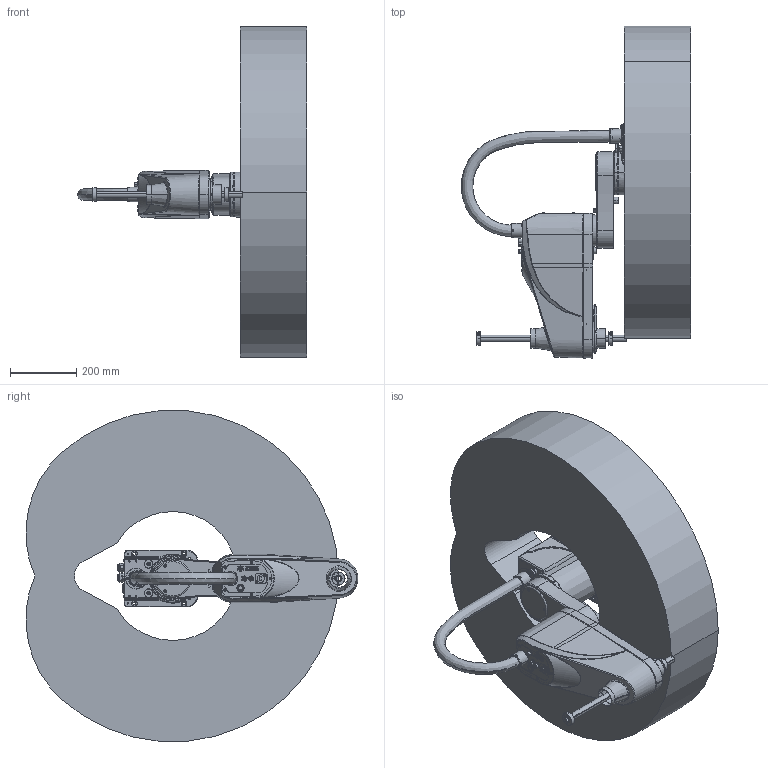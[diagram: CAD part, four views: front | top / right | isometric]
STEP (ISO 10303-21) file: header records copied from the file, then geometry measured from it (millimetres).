
FILE_DESCRIPTION (( 'STEP AP214' ), '1' );
FILE_NAME ('TRH005-500-200-S2可拖动机器人（SW2023）.STEP', '2025-04-17T00:57:58', ( 'Windows User' ), ( 'P R C' ), 'SwSTEP 2.0', 'SolidWorks 2023', '' );
FILE_SCHEMA (( 'AUTOMOTIVE_DESIGN' ));
Length unit declared in the file: millimetre
Products named in the file (8): TRH005-500-200-S2可拖动机器人（SW2023）; 复件 TRH0550-2-0^复件 TRH005-500-200-S2_TRH005-500-200-S2可拖动机器人（SW2023）; 复件 TRH005-500-200-S2^TRH005-500-200-S2可拖动机器人（SW2023）; 复件 20丝杆模块^复件 TRH005-500-200-S2_TRH005-500-200-S2可拖动机器人（SW2023）; 复件 scara600波纹管^复件 TRH005-500-200-S2_TRH005-500-200-S2可拖动机器人（SW2023）; 复件 500S2_1^复件 TRH005-500-200-S2_TRH005-500-200-S2可拖动机器人（SW2023）; 复件 TRH005-600-3 小臂模块^复件 TRH005-500-200-S2_TRH005-500-200-S2可拖动机器人（SW2023）; 复件 TRH005-500运动范围^TRH005-500-200-S2可拖动机器人（SW2023）
Assembly tree (7 placements, depth 3):
  TRH005-500-200-S2可拖动机器人（SW2023）
    复件 TRH005-500-200-S2^TRH005-500-200-S2可拖动机器人（SW2023）
      复件 500S2_1^复件 TRH005-500-200-S2_TRH005-500-200-S2可拖动机器人（SW2023）
      复件 TRH005-600-3 小臂模块^复件 TRH005-500-200-S2_TRH005-500-200-S2可拖动机器人（SW2023）
      复件 20丝杆模块^复件 TRH005-500-200-S2_TRH005-500-200-S2可拖动机器人（SW2023）
      复件 TRH0550-2-0^复件 TRH005-500-200-S2_TRH005-500-200-S2可拖动机器人（SW2023）
      复件 scara600波纹管^复件 TRH005-500-200-S2_TRH005-500-200-S2可拖动机器人（SW2023）
    复件 TRH005-500运动范围^TRH005-500-200-S2可拖动机器人（SW2023）
Bounding box: 691.8 x 1000.57 x 997.2 mm (x, y, z)
Volume: 126522190.9 mm3; surface area: 3243609.8 mm2
Topology: 7 solids, 162 shells, 2461 faces, 7162 edges, 4790 vertices
Faces by surface type: cylinder 1005, plane 837, cone 305, torus 151, bspline 112, sphere 51
Entity records: 99021 total; most frequent: CARTESIAN_POINT 33318, DIRECTION 14540, ORIENTED_EDGE 12036, EDGE_CURVE 7070, AXIS2_PLACEMENT_3D 5571, VERTEX_POINT 4790, VECTOR 3398, LINE 3398
